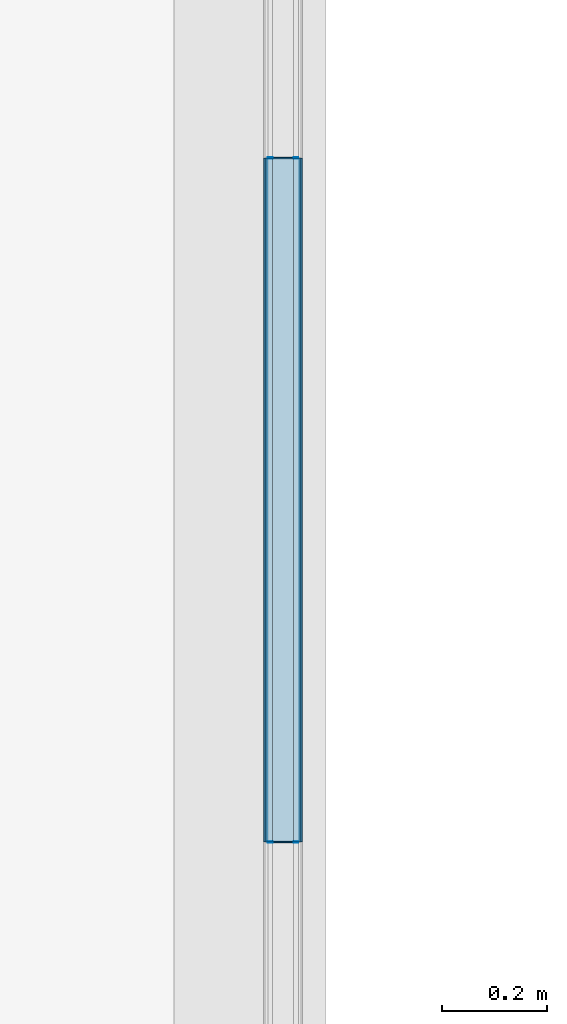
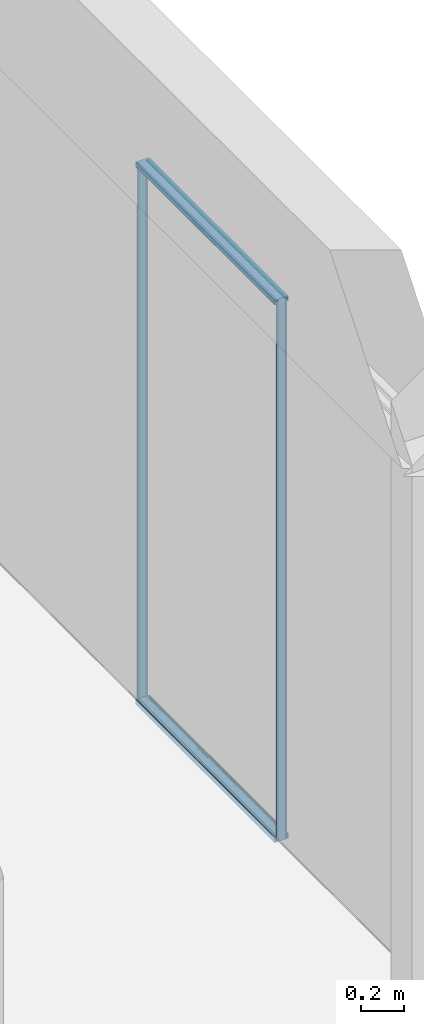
# One storey, part 77 of 387: 8 building element parts, 5 elements without a shape of their own.
"""IFC2X3 building model written with IfcOpenShell, lengths in millimetres."""

import ifcopenshell
import ifcopenshell.guid

model = None  # the IFC model being written
_history = None  # IfcOwnerHistory: only IFC2X3 demands one
_inside = {}  # id of a spatial element -> (the spatial element, [elements in it])
_under = {}  # id of a project, library or spatial element -> (it, [spatial elements below it])
_declared = {}  # id of a project -> (the project, [libraries it declares])
_typed = {}  # id of a type object -> (the type object, [elements of that type])
_made_of = {}  # id of a material, layer set ... -> (it, [elements and type objects made of it])


def new_model(schema):
    """Start an empty IFC model of exactly this schema.

    Asked for "IFC4X3", IfcOpenShell would pick the latest addendum, in which some entities
    have other attributes; the version numbers below select the first issue.
    IFC2X3 requires an IfcOwnerHistory on every rooted entity: one is made here for all.
    """
    global model, _history
    if schema == "IFC4X3":
        model = ifcopenshell.file(schema_version=(4, 3, 0, 0))
    else:
        model = ifcopenshell.file(schema=schema)
    _inside.clear()
    _under.clear()
    _declared.clear()
    _typed.clear()
    _made_of.clear()
    _history = None
    if model.schema == "IFC2X3":
        org = make("IfcOrganization", Name="unknown")
        user = make(
            "IfcPersonAndOrganization",
            ThePerson=make("IfcPerson", FamilyName="unknown"),
            TheOrganization=org,
        )
        app = make(
            "IfcApplication",
            ApplicationDeveloper=org,
            Version="unknown",
            ApplicationFullName="unknown",
            ApplicationIdentifier="unknown",
        )
        _history = make(
            "IfcOwnerHistory",
            OwningUser=user,
            OwningApplication=app,
            ChangeAction="ADDED",
            CreationDate=0,
        )
    return model


def make(cls, **values):
    """One entity of the class cls with the attributes given. An attribute that is None is left unset."""
    return model.create_entity(
        cls, **{name: value for name, value in values.items() if value is not None}
    )


def entity(cls, *values):
    """Any entity or typed value of the class cls, its attributes in the order of the schema. None: left unset."""
    e = model.create_entity(cls)
    for i, value in enumerate(values):
        if value is not None:
            e[i] = value
    return e


def rooted(cls, **values):
    """An entity with a GlobalId (a new one), such as an element, a storey or a relation."""
    return make(cls, GlobalId=ifcopenshell.guid.new(), OwnerHistory=_history, **values)


def si_unit(unit_type, name, prefix=None):
    """IfcSIUnit, for example si_unit("LENGTHUNIT", "METRE", prefix="MILLI")."""
    return make("IfcSIUnit", UnitType=unit_type, Prefix=prefix, Name=name)


def converted_unit(unit_type, name, factor, base, dimensions=None, offset=None):
    """IfcConversionBasedUnit, such as the inch: factor (a typed value) times the base unit."""
    return make(
        "IfcConversionBasedUnit"
        if offset is None
        else "IfcConversionBasedUnitWithOffset",
        ConversionOffset=offset,
        Dimensions=None
        if dimensions is None
        else entity("IfcDimensionalExponents", *dimensions),
        UnitType=unit_type,
        Name=name,
        ConversionFactor=make(
            "IfcMeasureWithUnit", ValueComponent=factor, UnitComponent=base
        ),
    )


def derived_unit(unit_type, elements):
    """IfcDerivedUnit: a product of units, each with its exponent."""
    return make(
        "IfcDerivedUnit",
        Elements=[
            make("IfcDerivedUnitElement", Unit=unit, Exponent=power)
            for unit, power in elements
        ],
        UnitType=unit_type,
    )


def money_unit(currency):
    """IfcMonetaryUnit."""
    return make("IfcMonetaryUnit", Currency=currency)


def assignment(units):
    """IfcUnitAssignment: the units of a project."""
    return None if units is None else make("IfcUnitAssignment", Units=units)


def point(xyz):
    """IfcCartesianPoint."""
    return None if xyz is None else make("IfcCartesianPoint", Coordinates=xyz)


def direction(xyz):
    """IfcDirection."""
    return None if xyz is None else make("IfcDirection", DirectionRatios=xyz)


def frame(location, z_axis=None, x_axis=None):
    """IfcAxis2Placement3D, a coordinate frame: its origin and axes. An axis left out is left unset."""
    return make(
        "IfcAxis2Placement3D",
        Location=point(location),
        Axis=direction(z_axis),
        RefDirection=direction(x_axis),
    )


def origin_with_axes():
    """The frame at (0, 0, 0) with the z axis (0, 0, 1) and the x axis (1, 0, 0) written out."""
    return frame((0.0, 0.0, 0.0), z_axis=(0.0, 0.0, 1.0), x_axis=(1.0, 0.0, 0.0))


def place(relative_to, where):
    """IfcLocalPlacement: puts the frame where relative to a parent placement (None: the world)."""
    return make(
        "IfcLocalPlacement", PlacementRelTo=relative_to, RelativePlacement=where
    )


def context(
    kind, dimensions, precision=None, world=None, true_north=None, identifier=None
):
    """IfcGeometricRepresentationContext, for example the 3D "Model" context."""
    return make(
        "IfcGeometricRepresentationContext",
        ContextIdentifier=identifier,
        ContextType=kind,
        CoordinateSpaceDimension=dimensions,
        Precision=precision,
        WorldCoordinateSystem=world,
        TrueNorth=true_north,
    )


def subcontext(parent, identifier, kind, view, scale=None):
    """IfcGeometricRepresentationSubContext, for example "Body" below "Model"."""
    return make(
        "IfcGeometricRepresentationSubContext",
        ContextIdentifier=identifier,
        ContextType=kind,
        ParentContext=parent,
        TargetScale=scale,
        TargetView=view,
    )


def project(units=None, contexts=None):
    """IfcProject with its units and contexts."""
    return rooted(
        "IfcProject",
        Name="project",
        RepresentationContexts=contexts,
        UnitsInContext=assignment(units),
    )


def spatial(cls, under=None, at=None, **own):
    """A site, building, storey or space (cls), placed at a placement, below another one or the project."""
    s = rooted(cls, ObjectPlacement=at, **own)
    if under is not None:
        _under.setdefault(under.id(), (under, []))[1].append(s)
    return s


def faces_of(points, faces, orient=None, outer=None):
    """IfcFace entities. A face is a list of loops; a loop is a list of indices into points, from 0.

    orient and outer hold one flag for each loop. By default every Orientation is true, the
    first loop of a face is its IfcFaceOuterBound and the others are IfcFaceBound.
    """
    made = []
    for i, loops in enumerate(faces):
        bounds = []
        for j, loop in enumerate(loops):
            is_outer = j == 0 if outer is None else outer[i][j]
            bounds.append(
                make(
                    "IfcFaceOuterBound" if is_outer else "IfcFaceBound",
                    Bound=make("IfcPolyLoop", Polygon=[points[k] for k in loop]),
                    Orientation=True if orient is None else orient[i][j],
                )
            )
        made.append(make("IfcFace", Bounds=bounds))
    return made


def faceted_brep(points, faces, orient=None, outer=None, voids=None):
    """IfcFacetedBrep: a solid bounded by flat faces; with voids (closed shells), ...WithVoids."""
    shared = [point(p) for p in points]
    hull = make("IfcClosedShell", CfsFaces=faces_of(shared, faces, orient, outer))
    if voids is None:
        return make("IfcFacetedBrep", Outer=hull)
    return make(
        "IfcFacetedBrepWithVoids",
        Outer=hull,
        Voids=[
            make(cls, CfsFaces=faces_of(shared, fs, o, b)) for cls, fs, o, b in voids
        ],
    )


def shape(context_of_items, identifier, shape_type, items):
    """IfcShapeRepresentation: the items that make up one representation, for example the "Body"."""
    return make(
        "IfcShapeRepresentation",
        ContextOfItems=context_of_items,
        RepresentationIdentifier=identifier,
        RepresentationType=shape_type,
        Items=items,
    )


def source(mapping_origin, context_of_items, identifier, shape_type, items):
    """IfcRepresentationMap: a shape defined once, which mapped items show again and again."""
    return make(
        "IfcRepresentationMap",
        MappingOrigin=mapping_origin,
        MappedRepresentation=shape(context_of_items, identifier, shape_type, items),
    )


def transform(
    local_origin,
    x_axis=None,
    y_axis=None,
    z_axis=None,
    scale=None,
    scale2=None,
    scale3=None,
    uniform=True,
):
    """IfcCartesianTransformationOperator3D, or its non-uniform kind. x_axis, y_axis, z_axis: its Axis1, 2, 3."""
    if uniform:
        return make(
            "IfcCartesianTransformationOperator3D",
            Axis1=direction(x_axis),
            Axis2=direction(y_axis),
            LocalOrigin=point(local_origin),
            Scale=scale,
            Axis3=direction(z_axis),
        )
    return make(
        "IfcCartesianTransformationOperator3DnonUniform",
        Axis1=direction(x_axis),
        Axis2=direction(y_axis),
        LocalOrigin=point(local_origin),
        Scale=scale,
        Axis3=direction(z_axis),
        Scale2=scale2,
        Scale3=scale3,
    )


def mapped(mapping_source, mapping_target):
    """IfcMappedItem: shows the shape of a source again, moved by a transform."""
    return make(
        "IfcMappedItem", MappingSource=mapping_source, MappingTarget=mapping_target
    )


def material(Name=None, Category=None):
    """IfcMaterial."""
    return make("IfcMaterial", Name=Name, Category=Category)


def made_of(thing, what):
    """Note that an element or type object is made of a material, layer set ...; save() writes the relation."""
    if what is not None:
        _made_of.setdefault(what.id(), (what, []))[1].append(thing)
    return thing


def type_object(cls, material=None, **own):
    """A type object (cls), such as IfcWallType, which elements share."""
    return made_of(rooted(cls, **own), material)


def element(
    cls,
    number,
    at=None,
    inside=None,
    cuts=None,
    type_object=None,
    material=None,
    context=None,
    identifier="Body",
    shape_type=None,
    held_by="IfcProductDefinitionShape",
    body=None,
    shapes=None,
    **own,
):
    """One element of the class cls, such as IfcWall. Its Tag is "e" and its number.

    at: its placement. inside: the storey or other place that contains it. cuts: it is an
    opening in that element (IfcRelVoidsElement). A single representation is given by context,
    identifier, shape_type and body (its items); several are given by shapes. held_by: the class
    of the entity that holds the representations. save() writes the other relations.
    """
    e = rooted(cls, Tag="e%d" % number, ObjectPlacement=at, **own)
    if body is not None:
        shapes = [shape(context, identifier, shape_type, body)]
    if shapes is not None:
        e.Representation = make(held_by, Representations=shapes)
    if inside is not None:
        _inside.setdefault(inside.id(), (inside, []))[1].append(e)
    if cuts is not None:
        rooted(
            "IfcRelVoidsElement", RelatingBuildingElement=cuts, RelatedOpeningElement=e
        )
    if type_object is not None:
        _typed.setdefault(type_object.id(), (type_object, []))[1].append(e)
    return made_of(e, material)


def aggregate(whole, parts):
    """IfcRelAggregates: a whole, such as a stair, and the parts it consists of."""
    return rooted("IfcRelAggregates", RelatingObject=whole, RelatedObjects=parts)


def save(model, path):
    """Write the relations noted so far, then the file.

    IfcRelAggregates (storeys below a building ...), IfcRelContainedInSpatialStructure (elements
    in a storey), IfcRelDefinesByType, IfcRelAssociatesMaterial and IfcRelDeclares: one each for
    every whole, place, type object, material and project.
    """
    for whole, parts in _under.values():
        aggregate(whole, parts)
    for where, things in _inside.values():
        rooted(
            "IfcRelContainedInSpatialStructure",
            RelatedElements=things,
            RelatingStructure=where,
        )
    for kind, things in _typed.values():
        rooted("IfcRelDefinesByType", RelatedObjects=things, RelatingType=kind)
    for what, things in _made_of.values():
        rooted("IfcRelAssociatesMaterial", RelatedObjects=things, RelatingMaterial=what)
    for by, libraries in _declared.values():
        rooted("IfcRelDeclares", RelatingContext=by, RelatedDefinitions=libraries)
    model.write(path)


model = new_model("IFC2X3")

# Units and contexts
model_context = context("Model", 3, precision=0.01, world=origin_with_axes(), true_north=direction((0.0, 1.0)))
body_context = subcontext(model_context, "Body", "Model", "MODEL_VIEW")
ifc_project = project(units=[si_unit("LENGTHUNIT", "METRE", prefix="MILLI"), si_unit("AREAUNIT", "SQUARE_METRE"), si_unit("VOLUMEUNIT", "CUBIC_METRE"), converted_unit("PLANEANGLEUNIT", "DEGREE", entity("IfcPlaneAngleMeasure", 0.0174532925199), si_unit("PLANEANGLEUNIT", "RADIAN"), dimensions=[0, 0, 0, 0, 0, 0, 0]), si_unit("SOLIDANGLEUNIT", "STERADIAN"), money_unit("EUR"), converted_unit("TIMEUNIT", "Year", entity("IfcTimeMeasure", 31556926.0), si_unit("TIMEUNIT", "SECOND"), dimensions=[0, 0, 1, 0, 0, 0, 0]), si_unit("MASSUNIT", "GRAM", prefix="KILO"), si_unit("THERMODYNAMICTEMPERATUREUNIT", "DEGREE_CELSIUS"), si_unit("LUMINOUSINTENSITYUNIT", "LUMEN"), si_unit("ENERGYUNIT", "JOULE", prefix="MEGA"), derived_unit("THERMALCONDUCTANCEUNIT", [(si_unit("POWERUNIT", "WATT"), 1), (si_unit("LENGTHUNIT", "METRE"), -1), (si_unit("THERMODYNAMICTEMPERATUREUNIT", "KELVIN"), -1)]), derived_unit("SPECIFICHEATCAPACITYUNIT", [(si_unit("ENERGYUNIT", "JOULE"), 1), (si_unit("MASSUNIT", "GRAM", prefix="KILO"), -1), (si_unit("THERMODYNAMICTEMPERATUREUNIT", "KELVIN"), -1)]), derived_unit("MASSDENSITYUNIT", [(si_unit("MASSUNIT", "GRAM", prefix="KILO"), 1), (si_unit("VOLUMEUNIT", "CUBIC_METRE"), -1)])], contexts=[model_context])

# Site, building, storey
site_placement = place(None, origin_with_axes())
site = spatial("IfcSite", under=ifc_project, at=site_placement, Name="Puškini 31, Narva", CompositionType="ELEMENT")
building_placement = place(site_placement, origin_with_axes())
building = spatial("IfcBuilding", under=site, at=building_placement, Name="Narva Riigigümnaasium", CompositionType="ELEMENT")
storey_placement = place(building_placement, frame((0.0, 0.0, 2640.0), z_axis=(0.0, 0.0, 1.0), x_axis=(1.0, 0.0, 0.0)))
storey = spatial("IfcBuildingStorey", under=building, at=storey_placement, Name="2.korrus +2.64", CompositionType="ELEMENT", Elevation=2640.0)

# Curtain wall, members, building element parts
curtain_wall_type = type_object("IfcCurtainWallType", Name="Curtain Wall Type", PredefinedType="NOTDEFINED")
curtain_wall_placement = place(storey_placement, frame((32763.000001, 176250.000005, -30.0000164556), z_axis=(0.0, 0.0, 1.0), x_axis=(1.0, 0.0, 0.0)))
curtain_wall = element("IfcCurtainWall", 1, at=curtain_wall_placement, inside=storey, type_object=curtain_wall_type, Name="G-SKLF-42")
member_type_1 = type_object("IfcMemberType", Name="30 x 37", PredefinedType="MULLION")
member_1_placement = place(curtain_wall_placement, frame((-8.49098569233e-09, 650.0, 0.0), z_axis=(0.0, 1.0, 0.0), x_axis=(0.0, 0.0, 1.0)))
member_1 = element("IfcMember", 2, at=member_1_placement, type_object=member_type_1, Name="G-SKLF-38-raam", ObjectType="MULLION")
ifc_material_1 = material(Name="Klaasvill")
shared_shape_1 = source(origin_with_axes(), body_context, "Body", "Brep", [
    faceted_brep([(-13.8499999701, 20.000000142, 0.69249315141), (-7.49999990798, 20.000000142, 0.374996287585), (-7.49999990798, 20.000000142, 1299.62499678), (-13.8499999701, 20.000000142, 1299.30749405), (-13.8499999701, 34.0161444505, 0.69249315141), (-7.49999990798, 34.0161444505, 0.374996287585), (-7.49999990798, 34.0161444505, 1299.62499678), (-13.8499999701, 34.0161444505, 1299.30749405)], [[[0, 1, 2, 3]], [[1, 0, 4, 5]], [[1, 5, 6, 2]], [[2, 6, 7, 3]], [[4, 0, 3, 7]], [[5, 4, 7, 6]]]),
    faceted_brep([(-25.004489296, 32.0307503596, 1.2502121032), (-24.987414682, 34.0161444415, 1.24935838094), (-24.987414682, 34.0161444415, 1298.75061852), (-25.004489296, 32.0307503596, 1298.74976478), (-25.742237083, 31.2930025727, 1.28709912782), (-26.7500193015, 31.0229681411, 1.33748774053), (-27.75780152, 31.2930025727, 1.38787635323), (-28.4955493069, 32.0307503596, 1.42476337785), (-28.7655837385, 33.0385325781, 1.43826496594), (-28.5126239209, 34.0161444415, 1.42561710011), (-28.5126239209, 34.0161444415, 1298.57435654), (-28.7655837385, 33.0385325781, 1298.56170844), (-28.4955493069, 32.0307503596, 1298.57521028), (-27.75780152, 31.2930025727, 1298.61209799), (-26.7500193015, 31.0229681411, 1298.66248753), (-25.742237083, 31.2930025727, 1298.71287708)], [[[0, 1, 2, 3]], [[1, 0, 4, 5, 6, 7, 8, 9]], [[1, 9, 10, 2]], [[2, 10, 11, 12, 13, 14, 15, 3]], [[4, 0, 3, 15]], [[5, 4, 15, 14]], [[6, 5, 14, 13]], [[7, 6, 13, 12]], [[8, 7, 12, 11]], [[9, 8, 11, 10]]]),
    faceted_brep([(-7.49999990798, -34.0161445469, 0.374996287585), (-7.49999990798, -19.9999997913, 0.374996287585), (-7.49999990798, -19.9999997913, 1299.62499678), (-7.49999990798, -34.0161445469, 1299.62499678), (-13.8499999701, -34.0161445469, 0.69249315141), (-13.8499999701, -19.9999997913, 0.69249315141), (-13.8499999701, -19.9999997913, 1299.30749405), (-13.8499999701, -34.0161445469, 1299.30749405)], [[[0, 1, 2, 3]], [[1, 0, 4, 5]], [[1, 5, 6, 2]], [[2, 6, 7, 3]], [[4, 0, 3, 7]], [[5, 4, 7, 6]]]),
    faceted_brep([(-24.987414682, -34.0161444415, 1.24935838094), (-25.004489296, -32.0307503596, 1.2502121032), (-25.004489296, -32.0307503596, 1298.74976478), (-24.987414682, -34.0161444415, 1298.75061852), (-28.5126239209, -34.0161444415, 1.42561710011), (-28.7655837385, -33.0385325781, 1.43826496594), (-28.4955493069, -32.0307503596, 1.42476337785), (-27.75780152, -31.2930025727, 1.38787635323), (-26.7500193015, -31.0229681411, 1.33748774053), (-25.742237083, -31.2930025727, 1.28709912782), (-25.742237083, -31.2930025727, 1298.71287708), (-26.7500193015, -31.0229681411, 1298.66248753), (-27.75780152, -31.2930025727, 1298.61209799), (-28.4955493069, -32.0307503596, 1298.57521028), (-28.7655837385, -33.0385325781, 1298.56170844), (-28.5126239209, -34.0161444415, 1298.57435654)], [[[0, 1, 2, 3]], [[1, 0, 4, 5, 6, 7, 8, 9]], [[1, 9, 10, 2]], [[2, 10, 11, 12, 13, 14, 15, 3]], [[4, 0, 3, 15]], [[5, 4, 15, 14]], [[6, 5, 14, 13]], [[7, 6, 13, 12]], [[8, 7, 12, 11]], [[9, 8, 11, 10]]]),
])
building_element_part_1_placement = place(member_1_placement, origin_with_axes())
building_element_part_1 = element("IfcBuildingElementPart", 3, at=building_element_part_1_placement, material=ifc_material_1, Name="Klaasvill", context=body_context, shape_type="MappedRepresentation", body=[
    mapped(shared_shape_1, transform((0.0, 0.0, 0.0), x_axis=(-1.0, 0.0, 0.0), y_axis=(0.0, -1.0, 0.0), z_axis=(0.0, 0.0, 1.0))),
])
member_2_placement = place(curtain_wall_placement, frame((-2.5472957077e-08, 1950.0, 3090.00003851), z_axis=(0.0, -1.0, -7.71617504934e-09), x_axis=(0.0, 7.71617504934e-09, -1.0)))
member_2 = element("IfcMember", 4, at=member_2_placement, type_object=member_type_1, Name="G-SKLF-42-raam", ObjectType="MULLION")
building_element_part_2_placement = place(member_2_placement, origin_with_axes())
building_element_part_2 = element("IfcBuildingElementPart", 5, at=building_element_part_2_placement, material=ifc_material_1, Name="Klaasvill", context=body_context, shape_type="MappedRepresentation", body=[
    mapped(shared_shape_1, transform((0.0, 0.0, 0.0), x_axis=(-1.0, 0.0, -7.71617511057e-09), y_axis=(0.0, -1.0, 0.0), z_axis=(-7.71617511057e-09, 0.0, 1.0))),
])
ifc_material_2 = material(Name="Teras RAL7012")
shared_shape_2 = source(origin_with_axes(), body_context, "Body", "Brep", [
    faceted_brep([(-29.5999996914, -17.0000000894, 1.47998535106), (0.0, -17.0000000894, 0.0), (0.0, -17.0000000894, 1300.0), (-29.5999996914, -17.0000000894, 1298.51998729), (-29.5999996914, 17.0000000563, 1.47998535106), (0.0, 17.0000000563, 0.0), (-1.9999999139, 15.0000001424, 0.0999990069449), (-18.7999996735, 15.0000001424, 0.939990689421), (-18.7999996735, -15.0000001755, 0.939990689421), (-1.9999999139, -15.0000001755, 0.0999990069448), (0.0, 17.0000000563, 1300.0), (-29.5999996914, 17.0000000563, 1298.51998729), (-1.9999999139, 15.0000001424, 1299.89999914), (-1.9999999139, -15.0000001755, 1299.89999914), (-18.7999996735, -15.0000001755, 1299.05999193), (-18.7999996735, 15.0000001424, 1299.05999193)], [[[0, 1, 2, 3]], [[1, 0, 4, 5], [6, 7, 8, 9]], [[1, 5, 10, 2]], [[2, 10, 11, 3], [12, 13, 14, 15]], [[4, 0, 3, 11]], [[5, 4, 11, 10]], [[7, 6, 12, 15]], [[8, 7, 15, 14]], [[9, 8, 14, 13]], [[6, 9, 13, 12]]]),
    faceted_brep([(-29.5999996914, 17.0000000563, 1.47998535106), (0.0, 17.0, 0.0), (0.0, 17.0, 1300.0), (-29.5999996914, 17.0000000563, 1298.51998729), (-30.0000193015, 17.0, 1.49998613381), (-30.0000193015, 20.0, 1.49998613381), (-13.8499999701, 20.000000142, 0.69249315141), (-7.49999999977, 20.0, 0.374996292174), (-7.49999999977, 34.0161444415, 0.374996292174), (-13.8499999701, 34.0161444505, 0.69249315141), (-24.987414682, 34.0161444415, 1.24935838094), (-28.5126239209, 34.0161444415, 1.42561710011), (-30.0000193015, 34.0161444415, 1.49998613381), (-30.0000193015, 37.0, 1.49998613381), (0.0, 37.0, 0.0), (0.0, 37.0, 1300.0), (-30.0000193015, 37.0, 1298.49998613), (-30.0000193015, 34.0161444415, 1298.49998613), (-28.5126239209, 34.0161444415, 1298.57435654), (-24.987414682, 34.0161444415, 1298.75061852), (-13.8499999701, 34.0161444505, 1299.30749405), (-7.49999999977, 34.0161444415, 1299.62499677), (-7.49999999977, 20.0, 1299.62499677), (-13.8499999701, 20.000000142, 1299.30749405), (-30.0000193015, 20.0, 1298.49998613), (-30.0000193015, 17.0, 1298.49998613)], [[[0, 1, 2, 3]], [[1, 0, 4, 5, 6, 7, 8, 9, 10, 11, 12, 13, 14]], [[1, 14, 15, 2]], [[2, 15, 16, 17, 18, 19, 20, 21, 22, 23, 24, 25, 3]], [[4, 0, 3, 25]], [[5, 4, 25, 24]], [[6, 5, 24, 23]], [[7, 6, 23, 22]], [[8, 7, 22, 21]], [[9, 8, 21, 20]], [[10, 9, 20, 19]], [[11, 10, 19, 18]], [[12, 11, 18, 17]], [[13, 12, 17, 16]], [[14, 13, 16, 15]]]),
    faceted_brep([(0.0, -37.0, 0.0), (0.0, -17.0, 0.0), (0.0, -17.0, 1300.0), (0.0, -37.0, 1300.0), (-30.0000193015, -37.0, 1.49998613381), (-30.0000193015, -34.0161444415, 1.49998613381), (-28.5126239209, -34.0161444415, 1.42561710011), (-24.987414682, -34.0161444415, 1.24935838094), (-13.8499999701, -34.0161445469, 0.69249315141), (-7.49999999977, -34.0161444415, 0.374996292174), (-7.49999999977, -20.0, 0.374996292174), (-13.8499999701, -19.9999997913, 0.69249315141), (-30.0000193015, -20.0, 1.49998613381), (-30.0000193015, -17.0, 1.49998613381), (-29.5999996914, -17.0000000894, 1.47998535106), (-29.5999996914, -17.0000000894, 1298.51998729), (-30.0000193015, -17.0, 1298.49998613), (-30.0000193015, -20.0, 1298.49998613), (-13.8499999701, -19.9999997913, 1299.30749405), (-7.49999999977, -20.0, 1299.62499677), (-7.49999999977, -34.0161444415, 1299.62499677), (-13.8499999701, -34.0161445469, 1299.30749405), (-24.987414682, -34.0161444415, 1298.75061852), (-28.5126239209, -34.0161444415, 1298.57435654), (-30.0000193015, -34.0161444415, 1298.49998613), (-30.0000193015, -37.0, 1298.49998613)], [[[0, 1, 2, 3]], [[1, 0, 4, 5, 6, 7, 8, 9, 10, 11, 12, 13, 14]], [[1, 14, 15, 2]], [[2, 15, 16, 17, 18, 19, 20, 21, 22, 23, 24, 25, 3]], [[4, 0, 3, 25]], [[5, 4, 25, 24]], [[6, 5, 24, 23]], [[7, 6, 23, 22]], [[8, 7, 22, 21]], [[9, 8, 21, 20]], [[10, 9, 20, 19]], [[11, 10, 19, 18]], [[12, 11, 18, 17]], [[13, 12, 17, 16]], [[14, 13, 16, 15]]]),
])
building_element_part_3_placement = place(member_1_placement, origin_with_axes())
building_element_part_3 = element("IfcBuildingElementPart", 6, at=building_element_part_3_placement, material=ifc_material_2, Name="Teras RAL7012", context=body_context, shape_type="MappedRepresentation", body=[
    mapped(shared_shape_2, transform((0.0, 0.0, 0.0), x_axis=(-1.0, 0.0, 0.0), y_axis=(0.0, -1.0, 0.0), z_axis=(0.0, 0.0, 1.0))),
])
aggregate(member_1, [building_element_part_1, building_element_part_3])
building_element_part_4_placement = place(member_2_placement, origin_with_axes())
building_element_part_4 = element("IfcBuildingElementPart", 7, at=building_element_part_4_placement, material=ifc_material_2, Name="Teras RAL7012", context=body_context, shape_type="MappedRepresentation", body=[
    mapped(shared_shape_2, transform((0.0, 0.0, 0.0), x_axis=(-1.0, 0.0, -7.71617511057e-09), y_axis=(0.0, -1.0, 0.0), z_axis=(-7.71617511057e-09, 0.0, 1.0))),
])
aggregate(member_2, [building_element_part_2, building_element_part_4])
member_type_2 = type_object("IfcMemberType", Name="3 x 29", PredefinedType="MULLION")
member_3_placement = place(curtain_wall_placement, frame((-8.49098569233e-09, 650.0, 0.0), z_axis=(0.0, 0.0, 1.0), x_axis=(0.0, -1.0, 0.0)))
member_3 = element("IfcMember", 8, at=member_3_placement, type_object=member_type_2, Name="G-SKLF-03-raam", ObjectType="MULLION")
ifc_material_3 = material(Name="Klaas")
shared_shape_3 = source(origin_with_axes(), body_context, "Body", "Brep", [
    faceted_brep([(-1.50001386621, 20.0064497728, 30.0000193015), (-1.50001386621, 20.0064497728, 3060.00000912), (-1.50001386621, 29.0064496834, 3060.00000912), (-1.50001386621, 29.0064496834, 30.0000193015), (0.0, 20.0064497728, 0.0), (1.49998613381, 20.0064497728, 30.0000193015), (1.49998613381, 20.0064497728, 3060.00000919), (0.0, 20.0064497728, 3090.00002847), (0.0, 29.0064496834, 3090.00002847), (0.0, 29.0064496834, 0.0), (1.49998613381, 29.0064496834, 3060.00000919), (1.49998613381, 29.0064496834, 30.0000193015)], [[[0, 1, 2, 3]], [[4, 5, 6, 7, 1, 0]], [[2, 1, 7, 8]], [[9, 3, 2, 8, 10, 11]], [[9, 4, 0, 3]], [[11, 5, 4, 9]], [[11, 10, 6, 5]], [[10, 8, 7, 6]]]),
    faceted_brep([(-1.50001386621, -28.9935503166, 30.0000193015), (-1.50001386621, -28.9935503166, 3060.00000912), (-1.50001386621, -19.993550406, 3060.00000912), (-1.50001386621, -19.993550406, 30.0000193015), (0.0, -28.9935503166, 0.0), (1.49998613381, -28.9935503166, 30.0000193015), (1.49998613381, -28.9935503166, 3060.00000919), (0.0, -28.9935503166, 3090.00002847), (0.0, -19.993550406, 3090.00002847), (0.0, -19.993550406, 0.0), (1.49998613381, -19.993550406, 3060.00000919), (1.49998613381, -19.993550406, 30.0000193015)], [[[0, 1, 2, 3]], [[4, 5, 6, 7, 1, 0]], [[2, 1, 7, 8]], [[9, 3, 2, 8, 10, 11]], [[9, 4, 0, 3]], [[11, 5, 4, 9]], [[11, 10, 6, 5]], [[10, 8, 7, 6]]]),
])
building_element_part_5_placement = place(member_3_placement, origin_with_axes())
building_element_part_5 = element("IfcBuildingElementPart", 9, at=building_element_part_5_placement, material=ifc_material_3, Name="Klaas", context=body_context, shape_type="MappedRepresentation", body=[
    mapped(shared_shape_3, transform((0.0, 0.0, 0.0), x_axis=(-1.0, 0.0, 0.0), y_axis=(0.0, -1.0, 0.0), z_axis=(0.0, 0.0, 1.0))),
])
member_4_placement = place(curtain_wall_placement, frame((-2.5472957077e-08, 1950.0, 0.0), z_axis=(0.0, 0.0, 1.0), x_axis=(0.0, -1.0, 0.0)))
member_4 = element("IfcMember", 10, at=member_4_placement, type_object=member_type_2, Name="G-SKLF-04-raam", ObjectType="MULLION")
aggregate(curtain_wall, [member_1, member_3, member_2, member_4])
building_element_part_6_placement = place(member_4_placement, origin_with_axes())
building_element_part_6 = element("IfcBuildingElementPart", 11, at=building_element_part_6_placement, material=ifc_material_3, Name="Klaas", context=body_context, shape_type="MappedRepresentation", body=[
    mapped(shared_shape_3, transform((0.0, 0.0, 0.0), x_axis=(-1.0, 0.0, 0.0), y_axis=(0.0, -1.0, 0.0), z_axis=(0.0, 0.0, 1.0))),
])
ifc_material_4 = material(Name="VKR-06_Õhkvahe")
shared_shape_4 = source(origin_with_axes(), body_context, "Body", "Brep", [
    faceted_brep([(-1.50001386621, -19.9935503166, 30.0000193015), (-1.50001386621, -19.9935503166, 3060.00000912), (-1.50001386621, 20.0064496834, 3060.00000912), (-1.50001386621, 20.0064496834, 30.0000193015), (0.0, -19.9935503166, 0.0), (1.49998613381, -19.9935503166, 30.0000193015), (1.49998613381, -19.9935503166, 3060.00000919), (0.0, -19.9935503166, 3090.00002847), (0.0, 20.0064496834, 3090.00002847), (0.0, 20.0064496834, 0.0), (1.49998613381, 20.0064496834, 3060.00000919), (1.49998613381, 20.0064496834, 30.0000193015)], [[[0, 1, 2, 3]], [[4, 5, 6, 7, 1, 0]], [[2, 1, 7, 8]], [[9, 3, 2, 8, 10, 11]], [[9, 4, 0, 3]], [[11, 5, 4, 9]], [[11, 10, 6, 5]], [[10, 8, 7, 6]]]),
])
building_element_part_7_placement = place(member_3_placement, origin_with_axes())
building_element_part_7 = element("IfcBuildingElementPart", 12, at=building_element_part_7_placement, material=ifc_material_4, Name="VKR-06_Õhkvahe", context=body_context, shape_type="MappedRepresentation", body=[
    mapped(shared_shape_4, transform((0.0, 0.0, 0.0), x_axis=(-1.0, 0.0, 0.0), y_axis=(0.0, -1.0, 0.0), z_axis=(0.0, 0.0, 1.0))),
])
aggregate(member_3, [building_element_part_5, building_element_part_7])
building_element_part_8_placement = place(member_4_placement, origin_with_axes())
building_element_part_8 = element("IfcBuildingElementPart", 13, at=building_element_part_8_placement, material=ifc_material_4, Name="VKR-06_Õhkvahe", context=body_context, shape_type="MappedRepresentation", body=[
    mapped(shared_shape_4, transform((0.0, 0.0, 0.0), x_axis=(-1.0, 0.0, 0.0), y_axis=(0.0, -1.0, 0.0), z_axis=(0.0, 0.0, 1.0))),
])
aggregate(member_4, [building_element_part_6, building_element_part_8])

save(model, "model.ifc")
